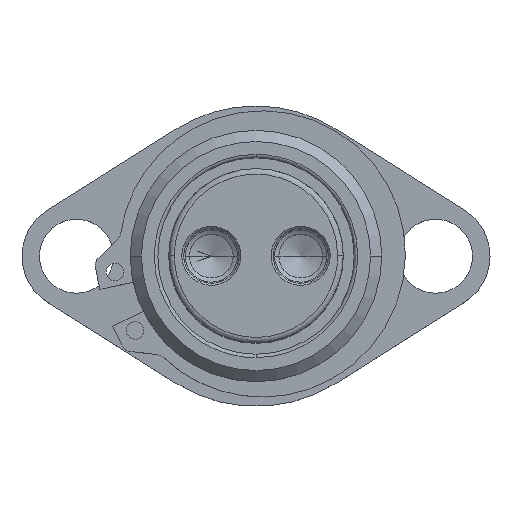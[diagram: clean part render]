
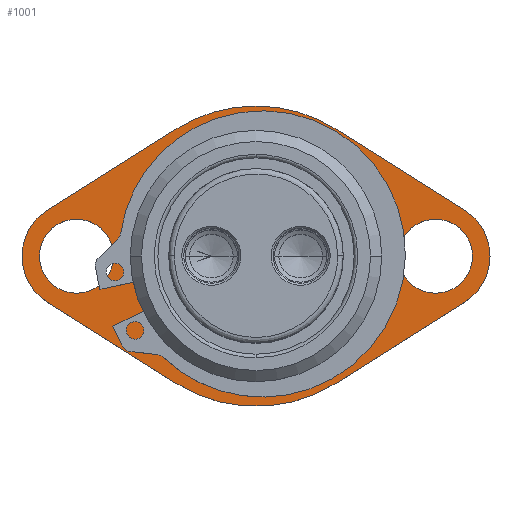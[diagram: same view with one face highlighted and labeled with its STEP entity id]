
A CAD part, top view. The second image highlights one B-rep face of the part: STEP entity #1001.
In plain terms, the highlighted planar face has unit normal (0, 0, 1) as drawn and (0, 1, 0) by its records, which use the part's own axes.
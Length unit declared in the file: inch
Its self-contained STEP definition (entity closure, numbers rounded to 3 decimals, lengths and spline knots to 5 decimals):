
#4 = AXIS2_PLACEMENT_3D ( 'NONE', #2487, #640, #3912 ) ;
#42 = DIRECTION ( 'NONE',  ( 0., -1., 0. ) ) ;
#44 = ORIENTED_EDGE ( 'NONE', *, *, #3818, .T. ) ;
#133 = CARTESIAN_POINT ( 'NONE',  ( -1.4929, 0.25, -0.32997 ) ) ;
#139 = CARTESIAN_POINT ( 'NONE',  ( -1.285, 0.25, 0.265 ) ) ;
#161 = AXIS2_PLACEMENT_3D ( 'NONE', #819, #1198, #454 ) ;
#239 = EDGE_CURVE ( 'NONE', #3284, #3737, #3493, .T. ) ;
#282 = EDGE_LOOP ( 'NONE', ( #3691, #1067, #1735, #656, #3902, #2011, #3449, #1798, #450 ) ) ;
#293 = CARTESIAN_POINT ( 'NONE',  ( 0., 0.25, 0. ) ) ;
#323 = DIRECTION ( 'NONE',  ( 0., 0., -1. ) ) ;
#435 = VERTEX_POINT ( 'NONE', #2426 ) ;
#450 = ORIENTED_EDGE ( 'NONE', *, *, #4414, .F. ) ;
#454 = DIRECTION ( 'NONE',  ( 0., 0., -1. ) ) ;
#472 = CIRCLE ( 'NONE', #666, 1.075 ) ;
#479 = VECTOR ( 'NONE', #4521, 39.37008 ) ;
#567 = EDGE_CURVE ( 'NONE', #3737, #3284, #1165, .T. ) ;
#640 = DIRECTION ( 'NONE',  ( 0., 1., 0. ) ) ;
#645 = AXIS2_PLACEMENT_3D ( 'NONE', #797, #42, #3295 ) ;
#656 = ORIENTED_EDGE ( 'NONE', *, *, #2159, .T. ) ;
#666 = AXIS2_PLACEMENT_3D ( 'NONE', #293, #4269, #4633 ) ;
#745 = VERTEX_POINT ( 'NONE', #2682 ) ;
#749 = EDGE_CURVE ( 'NONE', #1536, #3716, #1215, .T. ) ;
#787 = VERTEX_POINT ( 'NONE', #4123 ) ;
#797 = CARTESIAN_POINT ( 'NONE',  ( 0., 0.25, 0. ) ) ;
#800 = CARTESIAN_POINT ( 'NONE',  ( 0., 0.25, -0.9 ) ) ;
#819 = CARTESIAN_POINT ( 'NONE',  ( -1.285, 0.25, 0. ) ) ;
#878 = EDGE_CURVE ( 'NONE', #4068, #2706, #1487, .T. ) ;
#892 = FACE_BOUND ( 'NONE', #3513, .T. ) ;
#893 = ORIENTED_EDGE ( 'NONE', *, *, #878, .T. ) ;
#949 = CARTESIAN_POINT ( 'NONE',  ( 0., 0.25, 0. ) ) ;
#993 = AXIS2_PLACEMENT_3D ( 'NONE', #2026, #1993, #2363 ) ;
#1001 = ADVANCED_FACE ( 'NONE', ( #1326, #1950, #892, #3666 ), #2069, .T. ) ;
#1067 = ORIENTED_EDGE ( 'NONE', *, *, #749, .T. ) ;
#1165 = CIRCLE ( 'NONE', #4247, 0.265 ) ;
#1192 = EDGE_CURVE ( 'NONE', #2706, #4068, #1541, .T. ) ;
#1198 = DIRECTION ( 'NONE',  ( 0., -1., 0. ) ) ;
#1215 = LINE ( 'NONE', #133, #4006 ) ;
#1326 = FACE_BOUND ( 'NONE', #3152, .T. ) ;
#1333 = ORIENTED_EDGE ( 'NONE', *, *, #239, .T. ) ;
#1373 = CARTESIAN_POINT ( 'NONE',  ( 1.4929, 0.25, -0.32997 ) ) ;
#1484 = DIRECTION ( 'NONE',  ( 0., 0., -1. ) ) ;
#1487 = CIRCLE ( 'NONE', #1864, 0.265 ) ;
#1494 = DIRECTION ( 'NONE',  ( -0.846, 0., -0.533 ) ) ;
#1498 = AXIS2_PLACEMENT_3D ( 'NONE', #2002, #4150, #2372 ) ;
#1536 = VERTEX_POINT ( 'NONE', #2015 ) ;
#1541 = CIRCLE ( 'NONE', #161, 0.265 ) ;
#1623 = DIRECTION ( 'NONE',  ( 0., -1., 0. ) ) ;
#1632 = CARTESIAN_POINT ( 'NONE',  ( -0.57305, 0.25, 0.90952 ) ) ;
#1635 = EDGE_CURVE ( 'NONE', #435, #745, #2230, .T. ) ;
#1684 = VERTEX_POINT ( 'NONE', #800 ) ;
#1735 = ORIENTED_EDGE ( 'NONE', *, *, #4361, .F. ) ;
#1749 = DIRECTION ( 'NONE',  ( 0.846, 0., -0.533 ) ) ;
#1798 = ORIENTED_EDGE ( 'NONE', *, *, #4177, .T. ) ;
#1864 = AXIS2_PLACEMENT_3D ( 'NONE', #2037, #2408, #2341 ) ;
#1887 = VERTEX_POINT ( 'NONE', #4060 ) ;
#1926 = VECTOR ( 'NONE', #1494, 39.37008 ) ;
#1943 = EDGE_CURVE ( 'NONE', #3320, #1684, #4621, .T. ) ;
#1948 = DIRECTION ( 'NONE',  ( 0., 0., -1. ) ) ;
#1950 = FACE_OUTER_BOUND ( 'NONE', #282, .T. ) ;
#1993 = DIRECTION ( 'NONE',  ( 0., -1., 0. ) ) ;
#2002 = CARTESIAN_POINT ( 'NONE',  ( 0., 0.25, 0. ) ) ;
#2011 = ORIENTED_EDGE ( 'NONE', *, *, #1635, .T. ) ;
#2015 = CARTESIAN_POINT ( 'NONE',  ( -0.57305, 0.25, -0.90952 ) ) ;
#2026 = CARTESIAN_POINT ( 'NONE',  ( 1.285, 0.25, 0. ) ) ;
#2034 = CIRCLE ( 'NONE', #645, 1.075 ) ;
#2037 = CARTESIAN_POINT ( 'NONE',  ( -1.285, 0.25, 0. ) ) ;
#2042 = LINE ( 'NONE', #4208, #479 ) ;
#2069 = PLANE ( 'NONE',  #4 ) ;
#2159 = EDGE_CURVE ( 'NONE', #1887, #2196, #2042, .T. ) ;
#2196 = VERTEX_POINT ( 'NONE', #1632 ) ;
#2230 = LINE ( 'NONE', #2586, #3833 ) ;
#2240 = DIRECTION ( 'NONE',  ( 0., -1., 0. ) ) ;
#2262 = ORIENTED_EDGE ( 'NONE', *, *, #1943, .T. ) ;
#2314 = EDGE_CURVE ( 'NONE', #1536, #3109, #472, .T. ) ;
#2341 = DIRECTION ( 'NONE',  ( 0., 0., -1. ) ) ;
#2363 = DIRECTION ( 'NONE',  ( 0., 0., -1. ) ) ;
#2372 = DIRECTION ( 'NONE',  ( 0., 0., -1. ) ) ;
#2408 = DIRECTION ( 'NONE',  ( 0., -1., 0. ) ) ;
#2426 = CARTESIAN_POINT ( 'NONE',  ( 0.57305, 0.25, 0.90952 ) ) ;
#2457 = DIRECTION ( 'NONE',  ( 0., -1., 0. ) ) ;
#2481 = DIRECTION ( 'NONE',  ( 0., -1., 0. ) ) ;
#2487 = CARTESIAN_POINT ( 'NONE',  ( -1.285, 0.25, 0. ) ) ;
#2586 = CARTESIAN_POINT ( 'NONE',  ( 0.57305, 0.25, 0.90952 ) ) ;
#2594 = CARTESIAN_POINT ( 'NONE',  ( 1.285, 0.25, 0. ) ) ;
#2648 = AXIS2_PLACEMENT_3D ( 'NONE', #4666, #2481, #323 ) ;
#2652 = CARTESIAN_POINT ( 'NONE',  ( 1.285, 0.25, -0.265 ) ) ;
#2682 = CARTESIAN_POINT ( 'NONE',  ( 1.4929, 0.25, 0.32997 ) ) ;
#2706 = VERTEX_POINT ( 'NONE', #139 ) ;
#2739 = EDGE_CURVE ( 'NONE', #4074, #745, #4436, .T. ) ;
#2831 = AXIS2_PLACEMENT_3D ( 'NONE', #3348, #4092, #1948 ) ;
#3005 = DIRECTION ( 'NONE',  ( -0.846, 0., 0.533 ) ) ;
#3049 = DIRECTION ( 'NONE',  ( 0., 0., -1. ) ) ;
#3109 = VERTEX_POINT ( 'NONE', #4216 ) ;
#3152 = EDGE_LOOP ( 'NONE', ( #893, #3630 ) ) ;
#3166 = EDGE_LOOP ( 'NONE', ( #44, #2262 ) ) ;
#3248 = LINE ( 'NONE', #3272, #1926 ) ;
#3272 = CARTESIAN_POINT ( 'NONE',  ( 0.57305, 0.25, -0.90952 ) ) ;
#3284 = VERTEX_POINT ( 'NONE', #3628 ) ;
#3295 = DIRECTION ( 'NONE',  ( 0., 0., -1. ) ) ;
#3296 = CIRCLE ( 'NONE', #3929, 0.9 ) ;
#3320 = VERTEX_POINT ( 'NONE', #3671 ) ;
#3348 = CARTESIAN_POINT ( 'NONE',  ( 0., 0.25, 0. ) ) ;
#3449 = ORIENTED_EDGE ( 'NONE', *, *, #2739, .F. ) ;
#3493 = CIRCLE ( 'NONE', #993, 0.265 ) ;
#3513 = EDGE_LOOP ( 'NONE', ( #3946, #1333 ) ) ;
#3628 = CARTESIAN_POINT ( 'NONE',  ( 1.285, 0.25, 0.265 ) ) ;
#3630 = ORIENTED_EDGE ( 'NONE', *, *, #1192, .T. ) ;
#3666 = FACE_BOUND ( 'NONE', #3166, .T. ) ;
#3671 = CARTESIAN_POINT ( 'NONE',  ( 0., 0.25, 0.9 ) ) ;
#3691 = ORIENTED_EDGE ( 'NONE', *, *, #2314, .F. ) ;
#3716 = VERTEX_POINT ( 'NONE', #3992 ) ;
#3737 = VERTEX_POINT ( 'NONE', #2652 ) ;
#3818 = EDGE_CURVE ( 'NONE', #1684, #3320, #3296, .T. ) ;
#3833 = VECTOR ( 'NONE', #1749, 39.37008 ) ;
#3902 = ORIENTED_EDGE ( 'NONE', *, *, #4514, .F. ) ;
#3912 = DIRECTION ( 'NONE',  ( 0., 0., 1. ) ) ;
#3929 = AXIS2_PLACEMENT_3D ( 'NONE', #949, #1623, #3049 ) ;
#3946 = ORIENTED_EDGE ( 'NONE', *, *, #567, .T. ) ;
#3985 = CARTESIAN_POINT ( 'NONE',  ( -1.285, 0.25, -0.265 ) ) ;
#3992 = CARTESIAN_POINT ( 'NONE',  ( -1.4929, 0.25, -0.32997 ) ) ;
#4006 = VECTOR ( 'NONE', #3005, 39.37008 ) ;
#4060 = CARTESIAN_POINT ( 'NONE',  ( -1.4929, 0.25, 0.32997 ) ) ;
#4068 = VERTEX_POINT ( 'NONE', #3985 ) ;
#4074 = VERTEX_POINT ( 'NONE', #1373 ) ;
#4092 = DIRECTION ( 'NONE',  ( 0., -1., 0. ) ) ;
#4097 = CIRCLE ( 'NONE', #2648, 0.39 ) ;
#4123 = CARTESIAN_POINT ( 'NONE',  ( 0.57305, 0.25, -0.90952 ) ) ;
#4150 = DIRECTION ( 'NONE',  ( 0., -1., 0. ) ) ;
#4177 = EDGE_CURVE ( 'NONE', #4074, #787, #3248, .T. ) ;
#4208 = CARTESIAN_POINT ( 'NONE',  ( -1.4929, 0.25, 0.32997 ) ) ;
#4216 = CARTESIAN_POINT ( 'NONE',  ( 0., 0.25, -1.075 ) ) ;
#4247 = AXIS2_PLACEMENT_3D ( 'NONE', #2594, #2240, #1484 ) ;
#4269 = DIRECTION ( 'NONE',  ( 0., -1., 0. ) ) ;
#4318 = CIRCLE ( 'NONE', #2831, 1.075 ) ;
#4361 = EDGE_CURVE ( 'NONE', #1887, #3716, #4097, .T. ) ;
#4400 = AXIS2_PLACEMENT_3D ( 'NONE', #4681, #2457, #4664 ) ;
#4414 = EDGE_CURVE ( 'NONE', #3109, #787, #2034, .T. ) ;
#4436 = CIRCLE ( 'NONE', #4400, 0.39 ) ;
#4514 = EDGE_CURVE ( 'NONE', #435, #2196, #4318, .T. ) ;
#4521 = DIRECTION ( 'NONE',  ( 0.846, 0., 0.533 ) ) ;
#4621 = CIRCLE ( 'NONE', #1498, 0.9 ) ;
#4633 = DIRECTION ( 'NONE',  ( 0., 0., -1. ) ) ;
#4664 = DIRECTION ( 'NONE',  ( 0., 0., -1. ) ) ;
#4666 = CARTESIAN_POINT ( 'NONE',  ( -1.285, 0.25, 0. ) ) ;
#4681 = CARTESIAN_POINT ( 'NONE',  ( 1.285, 0.25, 0. ) ) ;
